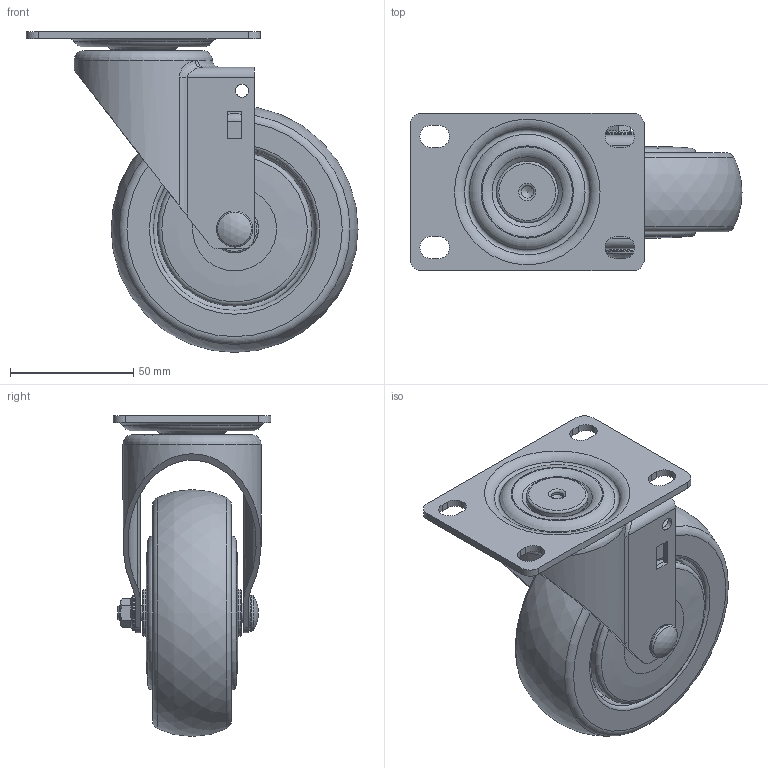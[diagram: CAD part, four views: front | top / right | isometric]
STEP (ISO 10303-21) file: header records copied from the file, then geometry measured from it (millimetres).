
FILE_DESCRIPTION((''),'2;1');
FILE_NAME('E:\GL-홈피용3D\3d step\가져온 구성요소\GL-100-ASF\GL-100-ASF.stp','2011-11-21T09:28:15',('Administrator'),(''),'Autodesk Inventor 2011','Autodesk Inventor 2011','');
FILE_SCHEMA(('AUTOMOTIVE_DESIGN { 1 0 10303 214 1 1 1 1 }'));
Length unit declared in the file: millimetre
Products named in the file (1): GL-100-ASF
Bounding box: 134.5 x 64 x 130 mm (x, y, z)
Volume: 234352.8 mm3; surface area: 98850 mm2
Topology: 7 solids, 10 shells, 310 faces, 710 edges, 458 vertices
Faces by surface type: plane 100, torus 95, cylinder 71, bspline 22, cone 21, sphere 1
Full cylindrical faces by diameter (mm): 5 x1, 5.2 x2, 6 x2, 6.2 x1, 7 x1, 8 x1, 8.2 x2, 11 x1, 11.1 x1, 11.2 x1, 14 x1, 14.6 x1, 15 x3, 16 x1, 19 x2, 21.667 x2, 21.867 x2, 24.645 x1, 25 x1, 28.133 x2, 28.333 x2, 32.4 x2, 41 x1, 43 x2, 47 x2, 59.5 x2, 62.5 x2, 66 x2
Entity records: 9049 total; most frequent: CARTESIAN_POINT 3022, DIRECTION 1284, ORIENTED_EDGE 954, AXIS2_PLACEMENT_3D 576, EDGE_LOOP 547, EDGE_CURVE 477, VERTEX_POINT 386, FACE_OUTER_BOUND 310
